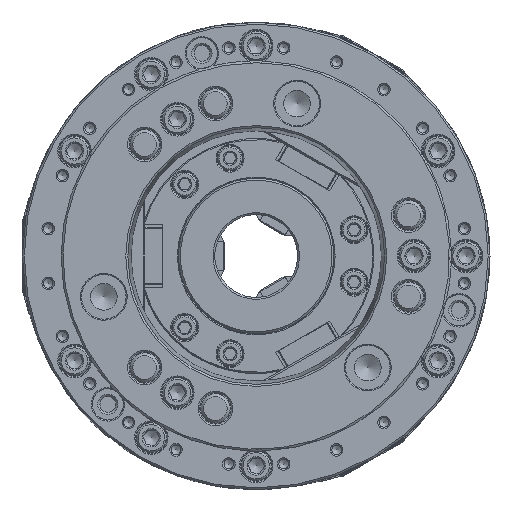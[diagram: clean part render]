
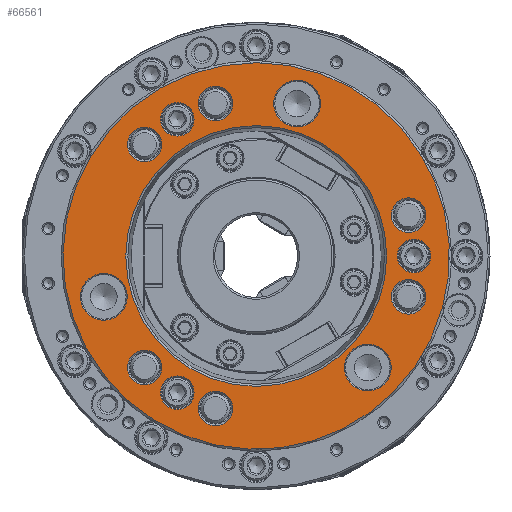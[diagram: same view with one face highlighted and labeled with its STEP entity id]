
A CAD part, left-side view. The second image highlights one B-rep face of the part: STEP entity #66561.
In plain terms, the highlighted planar face has unit normal (-1, 0, 0).
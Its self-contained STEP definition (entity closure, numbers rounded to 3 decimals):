
#3287 = EDGE_LOOP ( 'NONE', ( #29956 ) ) ;
#4606 = EDGE_CURVE ( 'NONE', #94391, #94391, #29683, .T. ) ;
#4688 = ORIENTED_EDGE ( 'NONE', *, *, #105888, .T. ) ;
#5878 = FACE_BOUND ( 'NONE', #3287, .T. ) ;
#5957 = DIRECTION ( 'NONE',  ( 1., 0., 0. ) ) ;
#7122 = CARTESIAN_POINT ( 'NONE',  ( -114., 42.863, 83.34 ) ) ;
#7832 = FACE_BOUND ( 'NONE', #124490, .T. ) ;
#10198 = VERTEX_POINT ( 'NONE', #37771 ) ;
#11980 = CARTESIAN_POINT ( 'NONE',  ( -114., 42.862, -65.14 ) ) ;
#12686 = CIRCLE ( 'NONE', #102905, 70.861 ) ;
#13452 = CARTESIAN_POINT ( 'NONE',  ( -114., -22.187, 70.099 ) ) ;
#13766 = AXIS2_PLACEMENT_3D ( 'NONE', #120170, #20944, #97839 ) ;
#14760 = EDGE_LOOP ( 'NONE', ( #20830 ) ) ;
#15120 = FACE_BOUND ( 'NONE', #31808, .T. ) ;
#15129 = DIRECTION ( 'NONE',  ( 0., 0., 1. ) ) ;
#15744 = FACE_BOUND ( 'NONE', #87583, .T. ) ;
#16396 = FACE_BOUND ( 'NONE', #101153, .T. ) ;
#16666 = CARTESIAN_POINT ( 'NONE',  ( -114., 0., 105. ) ) ;
#17368 = EDGE_CURVE ( 'NONE', #10198, #10198, #67962, .T. ) ;
#20749 = CIRCLE ( 'NONE', #96340, 9.4 ) ;
#20830 = ORIENTED_EDGE ( 'NONE', *, *, #60086, .F. ) ;
#20944 = DIRECTION ( 'NONE',  ( -1., 0., 0. ) ) ;
#21184 = DIRECTION ( 'NONE',  ( -1., 0., 0. ) ) ;
#21775 = DIRECTION ( 'NONE',  ( -1., 0., 0. ) ) ;
#21930 = ORIENTED_EDGE ( 'NONE', *, *, #114661, .T. ) ;
#22934 = AXIS2_PLACEMENT_3D ( 'NONE', #103282, #5957, #34903 ) ;
#23056 = ORIENTED_EDGE ( 'NONE', *, *, #46284, .F. ) ;
#23058 = AXIS2_PLACEMENT_3D ( 'NONE', #111205, #21184, #31059 ) ;
#23318 = VERTEX_POINT ( 'NONE', #13452 ) ;
#24941 = DIRECTION ( 'NONE',  ( -1., 0., 0. ) ) ;
#25193 = CIRCLE ( 'NONE', #23058, 9.4 ) ;
#26245 = DIRECTION ( 'NONE',  ( 1., 0., 0. ) ) ;
#26264 = CARTESIAN_POINT ( 'NONE',  ( -114., 60.617, 60.617 ) ) ;
#29683 = CIRCLE ( 'NONE', #37978, 9.4 ) ;
#29956 = ORIENTED_EDGE ( 'NONE', *, *, #47500, .F. ) ;
#30342 = CARTESIAN_POINT ( 'NONE',  ( -114., 42.863, 74.24 ) ) ;
#31059 = DIRECTION ( 'NONE',  ( 0., 0., 1. ) ) ;
#31808 = EDGE_LOOP ( 'NONE', ( #71959 ) ) ;
#32389 = AXIS2_PLACEMENT_3D ( 'NONE', #52205, #110729, #53497 ) ;
#32603 = CIRCLE ( 'NONE', #13766, 105. ) ;
#32606 = DIRECTION ( 'NONE',  ( -1., 0., 0. ) ) ;
#33289 = CARTESIAN_POINT ( 'NONE',  ( -114., 0., 0. ) ) ;
#33298 = CARTESIAN_POINT ( 'NONE',  ( -114., -82.804, 31.587 ) ) ;
#34631 = EDGE_LOOP ( 'NONE', ( #91888 ) ) ;
#34903 = DIRECTION ( 'NONE',  ( 0., 0., -1. ) ) ;
#36757 = CIRCLE ( 'NONE', #74568, 9.4 ) ;
#36899 = CIRCLE ( 'NONE', #83059, 12.705 ) ;
#37771 = CARTESIAN_POINT ( 'NONE',  ( -114., 22.187, -73.404 ) ) ;
#37904 = AXIS2_PLACEMENT_3D ( 'NONE', #75530, #26245, #118180 ) ;
#37978 = AXIS2_PLACEMENT_3D ( 'NONE', #82527, #32606, #72653 ) ;
#38528 = ORIENTED_EDGE ( 'NONE', *, *, #17368, .F. ) ;
#42136 = EDGE_CURVE ( 'NONE', #78368, #78368, #36757, .T. ) ;
#42171 = VERTEX_POINT ( 'NONE', #111859 ) ;
#43412 = CIRCLE ( 'NONE', #60176, 9.1 ) ;
#43643 = CARTESIAN_POINT ( 'NONE',  ( -114., 22.187, 92.204 ) ) ;
#45268 = CARTESIAN_POINT ( 'NONE',  ( -114., 22.187, 82.804 ) ) ;
#45450 = EDGE_LOOP ( 'NONE', ( #4688 ) ) ;
#45944 = FACE_OUTER_BOUND ( 'NONE', #45450, .T. ) ;
#46284 = EDGE_CURVE ( 'NONE', #42171, #42171, #76863, .T. ) ;
#46595 = FACE_BOUND ( 'NONE', #113647, .T. ) ;
#47087 = DIRECTION ( 'NONE',  ( 0., 0., 1. ) ) ;
#47500 = EDGE_CURVE ( 'NONE', #92787, #92787, #43412, .T. ) ;
#47879 = FACE_BOUND ( 'NONE', #124066, .T. ) ;
#48580 = CARTESIAN_POINT ( 'NONE',  ( -114., 60.617, -60.617 ) ) ;
#48802 = CARTESIAN_POINT ( 'NONE',  ( -114., -60.617, -73.322 ) ) ;
#50457 = ORIENTED_EDGE ( 'NONE', *, *, #100264, .T. ) ;
#52205 = CARTESIAN_POINT ( 'NONE',  ( -114., 22.187, -82.804 ) ) ;
#53497 = DIRECTION ( 'NONE',  ( 0., 0., 1. ) ) ;
#53881 = DIRECTION ( 'NONE',  ( -1., 0., 0. ) ) ;
#55781 = FACE_BOUND ( 'NONE', #114141, .T. ) ;
#55870 = VERTEX_POINT ( 'NONE', #86131 ) ;
#56429 = DIRECTION ( 'NONE',  ( 0., 0., -1. ) ) ;
#57060 = DIRECTION ( 'NONE',  ( 0., 0., -1. ) ) ;
#59015 = CARTESIAN_POINT ( 'NONE',  ( -114., 82.804, -22.187 ) ) ;
#59943 = VERTEX_POINT ( 'NONE', #48802 ) ;
#60086 = EDGE_CURVE ( 'NONE', #55870, #55870, #25193, .T. ) ;
#60176 = AXIS2_PLACEMENT_3D ( 'NONE', #105991, #125720, #107931 ) ;
#63166 = CIRCLE ( 'NONE', #37904, 12.705 ) ;
#65601 = CARTESIAN_POINT ( 'NONE',  ( -114., 0., 70.861 ) ) ;
#66561 = ADVANCED_FACE ( 'NONE', ( #47879, #16396, #105763, #114986, #15744, #55781, #5878, #7832, #95903, #46595, #15120, #74894, #45944, #76833 ), #76187, .F. ) ;
#67962 = CIRCLE ( 'NONE', #32389, 9.4 ) ;
#68168 = EDGE_CURVE ( 'NONE', #97270, #97270, #84983, .T. ) ;
#68882 = DIRECTION ( 'NONE',  ( 1., 0., 0. ) ) ;
#68938 = DIRECTION ( 'NONE',  ( 0., 0., 1. ) ) ;
#70135 = VERTEX_POINT ( 'NONE', #74515 ) ;
#71959 = ORIENTED_EDGE ( 'NONE', *, *, #68168, .F. ) ;
#72653 = DIRECTION ( 'NONE',  ( 0., 0., 1. ) ) ;
#73341 = DIRECTION ( 'NONE',  ( -1., 0., 0. ) ) ;
#74289 = ORIENTED_EDGE ( 'NONE', *, *, #93919, .F. ) ;
#74515 = CARTESIAN_POINT ( 'NONE',  ( -114., 82.804, -34.892 ) ) ;
#74568 = AXIS2_PLACEMENT_3D ( 'NONE', #26264, #53881, #15129 ) ;
#74894 = FACE_BOUND ( 'NONE', #34631, .T. ) ;
#75491 = DIRECTION ( 'NONE',  ( 0., 0., 1. ) ) ;
#75530 = CARTESIAN_POINT ( 'NONE',  ( -114., -60.617, -60.617 ) ) ;
#76187 = PLANE ( 'NONE',  #113937 ) ;
#76833 = FACE_BOUND ( 'NONE', #114802, .T. ) ;
#76863 = CIRCLE ( 'NONE', #83154, 9.4 ) ;
#77716 = EDGE_CURVE ( 'NONE', #83417, #83417, #12686, .T. ) ;
#78368 = VERTEX_POINT ( 'NONE', #87564 ) ;
#81874 = ORIENTED_EDGE ( 'NONE', *, *, #96125, .T. ) ;
#82527 = CARTESIAN_POINT ( 'NONE',  ( -114., -82.804, 22.187 ) ) ;
#83059 = AXIS2_PLACEMENT_3D ( 'NONE', #59015, #68882, #57060 ) ;
#83154 = AXIS2_PLACEMENT_3D ( 'NONE', #48580, #118882, #68938 ) ;
#83417 = VERTEX_POINT ( 'NONE', #65601 ) ;
#84983 = CIRCLE ( 'NONE', #112300, 9.1 ) ;
#85484 = ORIENTED_EDGE ( 'NONE', *, *, #4606, .F. ) ;
#85833 = CIRCLE ( 'NONE', #22934, 12.705 ) ;
#86131 = CARTESIAN_POINT ( 'NONE',  ( -114., -82.804, -12.787 ) ) ;
#87564 = CARTESIAN_POINT ( 'NONE',  ( -114., 60.617, 70.017 ) ) ;
#87583 = EDGE_LOOP ( 'NONE', ( #38528 ) ) ;
#87945 = EDGE_CURVE ( 'NONE', #107646, #107646, #112351, .T. ) ;
#88134 = ORIENTED_EDGE ( 'NONE', *, *, #42136, .F. ) ;
#89802 = EDGE_LOOP ( 'NONE', ( #23056 ) ) ;
#91888 = ORIENTED_EDGE ( 'NONE', *, *, #77716, .F. ) ;
#92078 = DIRECTION ( 'NONE',  ( 0., 0., 1. ) ) ;
#92787 = VERTEX_POINT ( 'NONE', #11980 ) ;
#92848 = ORIENTED_EDGE ( 'NONE', *, *, #87945, .F. ) ;
#93919 = EDGE_CURVE ( 'NONE', #123810, #123810, #20749, .T. ) ;
#94391 = VERTEX_POINT ( 'NONE', #33298 ) ;
#95903 = FACE_BOUND ( 'NONE', #14760, .T. ) ;
#96125 = EDGE_CURVE ( 'NONE', #23318, #23318, #85833, .T. ) ;
#96340 = AXIS2_PLACEMENT_3D ( 'NONE', #45268, #24941, #75491 ) ;
#97045 = CARTESIAN_POINT ( 'NONE',  ( -114., -85.725, 0. ) ) ;
#97182 = DIRECTION ( 'NONE',  ( 1., 0., 0. ) ) ;
#97270 = VERTEX_POINT ( 'NONE', #97919 ) ;
#97839 = DIRECTION ( 'NONE',  ( 0., 0., 1. ) ) ;
#97919 = CARTESIAN_POINT ( 'NONE',  ( -114., -85.725, 9.1 ) ) ;
#99057 = EDGE_LOOP ( 'NONE', ( #50457 ) ) ;
#100264 = EDGE_CURVE ( 'NONE', #70135, #70135, #36899, .T. ) ;
#101153 = EDGE_LOOP ( 'NONE', ( #21930 ) ) ;
#102905 = AXIS2_PLACEMENT_3D ( 'NONE', #33289, #73341, #113452 ) ;
#103282 = CARTESIAN_POINT ( 'NONE',  ( -114., -22.187, 82.804 ) ) ;
#105763 = FACE_BOUND ( 'NONE', #99057, .T. ) ;
#105888 = EDGE_CURVE ( 'NONE', #107320, #107320, #32603, .T. ) ;
#105991 = CARTESIAN_POINT ( 'NONE',  ( -114., 42.862, -74.24 ) ) ;
#107320 = VERTEX_POINT ( 'NONE', #16666 ) ;
#107646 = VERTEX_POINT ( 'NONE', #7122 ) ;
#107931 = DIRECTION ( 'NONE',  ( 0., 0., 1. ) ) ;
#110729 = DIRECTION ( 'NONE',  ( -1., 0., 0. ) ) ;
#111205 = CARTESIAN_POINT ( 'NONE',  ( -114., -82.804, -22.187 ) ) ;
#111859 = CARTESIAN_POINT ( 'NONE',  ( -114., 60.617, -51.217 ) ) ;
#112300 = AXIS2_PLACEMENT_3D ( 'NONE', #97045, #114359, #47087 ) ;
#112351 = CIRCLE ( 'NONE', #122842, 9.1 ) ;
#113452 = DIRECTION ( 'NONE',  ( 0., 0., 1. ) ) ;
#113647 = EDGE_LOOP ( 'NONE', ( #85484 ) ) ;
#113937 = AXIS2_PLACEMENT_3D ( 'NONE', #116234, #97182, #56429 ) ;
#114141 = EDGE_LOOP ( 'NONE', ( #74289 ) ) ;
#114359 = DIRECTION ( 'NONE',  ( -1., 0., 0. ) ) ;
#114661 = EDGE_CURVE ( 'NONE', #59943, #59943, #63166, .T. ) ;
#114802 = EDGE_LOOP ( 'NONE', ( #88134 ) ) ;
#114986 = FACE_BOUND ( 'NONE', #89802, .T. ) ;
#116234 = CARTESIAN_POINT ( 'NONE',  ( -114., 105., 0. ) ) ;
#118180 = DIRECTION ( 'NONE',  ( 0., 0., -1. ) ) ;
#118882 = DIRECTION ( 'NONE',  ( -1., 0., 0. ) ) ;
#120170 = CARTESIAN_POINT ( 'NONE',  ( -114., 0., 0. ) ) ;
#122842 = AXIS2_PLACEMENT_3D ( 'NONE', #30342, #21775, #92078 ) ;
#123810 = VERTEX_POINT ( 'NONE', #43643 ) ;
#124066 = EDGE_LOOP ( 'NONE', ( #81874 ) ) ;
#124490 = EDGE_LOOP ( 'NONE', ( #92848 ) ) ;
#125720 = DIRECTION ( 'NONE',  ( -1., 0., 0. ) ) ;
